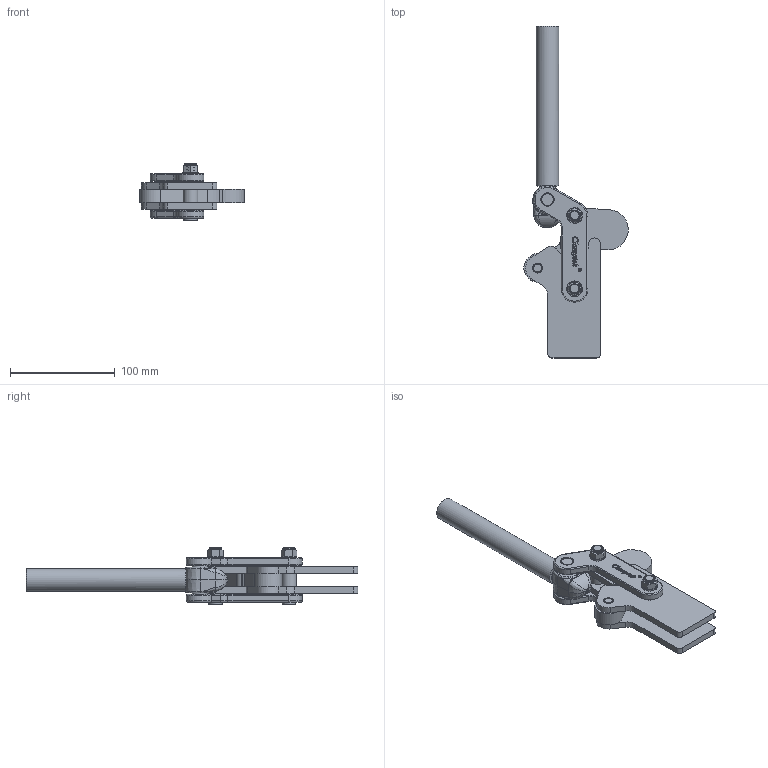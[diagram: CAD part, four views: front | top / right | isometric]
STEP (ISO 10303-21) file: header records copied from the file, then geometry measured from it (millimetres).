
FILE_DESCRIPTION(/* description */ ('STEP AP203'),/* implementation_level */ '2;1');
FILE_NAME(/* name */ 'D:\Vault_2016\Projekty\NASZ KATALOG\CLAMPTEK\STRONA\Heavy duty weldables\CH-701-D\CH-701-D_ZAMKNIETY.stp',/* time_stamp */ '2019-01-14T13:35:26+01:00',/* author */ ('CADENGINEERING4'),/* organization */ ('Î¢ÈíÖÐ¹ú'),/* preprocessor_version */ 'ST-DEVELOPER v17.2',/* originating_system */ 'Autodesk Inventor 2019',/* authorisation */ '');
FILE_SCHEMA (('AUTOMOTIVE_DESIGN { 1 0 10303 214 3 1 1 }'));
Products named in the file (13): CH-701-D_ZAMKNIETY; 701-D-01_Ä¬ÈÏ; 702-D-03_Ä¬ÈÏ; 701-D-04_Ä¬ÈÏ; 702-D-12_Ä¬ÈÏ; 702-D-09_Ä¬ÈÏ; 702-D-10_Ä¬ÈÏ; 702-D-11_Ä¬ÈÏ; 702-D-06_Ä¬ÈÏ; 702-D-05_Ä¬ÈÏ; 702-D-07_Ä¬ÈÏ; 3-8-16 LOCK NUT_Ä¬ÈÏ; 702-D-08_Ä¬ÈÏ
Assembly tree (22 placements, depth 2):
  CH-701-D_ZAMKNIETY
    701-D-01_Ä¬ÈÏ  x2
    702-D-10_Ä¬ÈÏ  x2
    702-D-11_Ä¬ÈÏ  x4
    3-8-16 LOCK NUT_Ä¬ÈÏ  x2
    702-D-03_Ä¬ÈÏ  x2
    702-D-12_Ä¬ÈÏ  x2
    701-D-04_Ä¬ÈÏ
    702-D-08_Ä¬ÈÏ  x2
    702-D-09_Ä¬ÈÏ
    702-D-06_Ä¬ÈÏ  x2
    702-D-05_Ä¬ÈÏ
    702-D-07_Ä¬ÈÏ
Bounding box: 99.45 x 316.24 x 54.6 mm (x, y, z)
Volume: 218413.1 mm3; surface area: 98838.2 mm2
Topology: 23 solids, 23 shells, 2166 faces, 6274 edges, 4194 vertices
Faces by surface type: plane 1371, cylinder 505, bspline 209, cone 47, torus 30, sphere 4
Full cylindrical faces by diameter (mm): 2.749 x1, 3.071 x1, 7.5 x2, 8.5 x8, 9.5 x28, 9.6 x3, 9.8 x4, 10 x4, 12 x2, 12.6 x2, 12.7 x4, 12.8 x4, 12.9 x2, 14 x6, 16 x1, 20 x4, 21.5 x1
Entity records: 62834 total; most frequent: CARTESIAN_POINT 23142, ORIENTED_EDGE 8686, DIRECTION 7520, EDGE_CURVE 4343, LINE 2912, VECTOR 2912, VERTEX_POINT 2892, AXIS2_PLACEMENT_3D 2304
